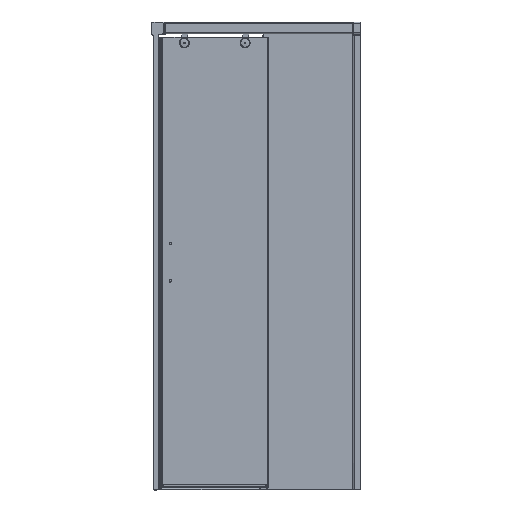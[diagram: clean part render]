
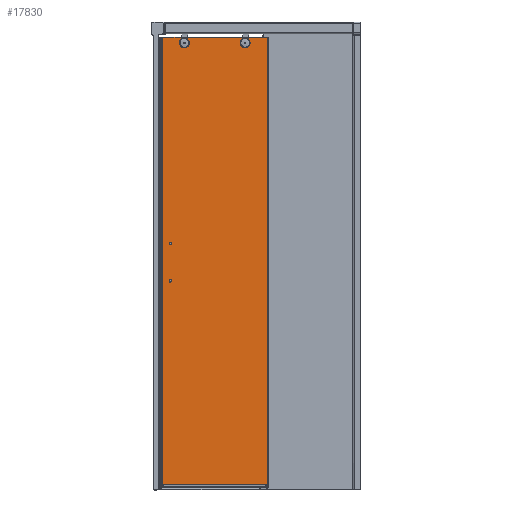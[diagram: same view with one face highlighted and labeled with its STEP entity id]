
A CAD part, left-side view. The second image highlights one B-rep face of the part: STEP entity #17830.
In plain terms, the highlighted planar face has unit normal (-1, 0, 0).
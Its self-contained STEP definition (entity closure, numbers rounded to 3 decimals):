
#172=FACE_BOUND($,#2103,.T.);
#173=FACE_BOUND($,#2104,.T.);
#174=FACE_BOUND($,#2105,.T.);
#175=FACE_BOUND($,#2106,.T.);
#176=FACE_BOUND($,#2107,.T.);
#521=PLANE($,#18922);
#2103=EDGE_LOOP($,(#11898));
#2104=EDGE_LOOP($,(#11899));
#2105=EDGE_LOOP($,(#11900));
#2106=EDGE_LOOP($,(#11901));
#2107=EDGE_LOOP($,(#11902,#11903,#11904,#11905));
#3084=LINE($,#25840,#4780);
#3149=LINE($,#26245,#4845);
#3150=LINE($,#26247,#4846);
#3151=LINE($,#26248,#4847);
#4780=VECTOR($,#20744,455.);
#4845=VECTOR($,#20955,1914.4);
#4846=VECTOR($,#20956,455.);
#4847=VECTOR($,#20957,1914.4);
#6429=CIRCLE($,#18789,18.5);
#6449=CIRCLE($,#18826,18.5);
#6477=CIRCLE($,#18923,5.5);
#6478=CIRCLE($,#18924,5.5);
#7115=VERTEX_POINT($,#25570);
#7144=VERTEX_POINT($,#25722);
#7170=VERTEX_POINT($,#25837);
#7171=VERTEX_POINT($,#25839);
#7254=VERTEX_POINT($,#26240);
#7255=VERTEX_POINT($,#26242);
#7256=VERTEX_POINT($,#26244);
#7257=VERTEX_POINT($,#26246);
#8847=EDGE_CURVE($,#7115,#7115,#6429,.T.);
#8885=EDGE_CURVE($,#7144,#7144,#6449,.T.);
#8916=EDGE_CURVE($,#7170,#7171,#3084,.T.);
#9037=EDGE_CURVE($,#7254,#7254,#6477,.T.);
#9038=EDGE_CURVE($,#7255,#7255,#6478,.T.);
#9039=EDGE_CURVE($,#7170,#7256,#3149,.T.);
#9040=EDGE_CURVE($,#7257,#7256,#3150,.T.);
#9041=EDGE_CURVE($,#7171,#7257,#3151,.T.);
#11898=ORIENTED_EDGE($,*,*,#8847,.T.);
#11899=ORIENTED_EDGE($,*,*,#8885,.T.);
#11900=ORIENTED_EDGE($,*,*,#9037,.T.);
#11901=ORIENTED_EDGE($,*,*,#9038,.T.);
#11902=ORIENTED_EDGE($,*,*,#8916,.F.);
#11903=ORIENTED_EDGE($,*,*,#9039,.T.);
#11904=ORIENTED_EDGE($,*,*,#9040,.F.);
#11905=ORIENTED_EDGE($,*,*,#9041,.F.);
#17830=ADVANCED_FACE($,(#172,#173,#174,#175,#176),#521,.T.);
#18789=AXIS2_PLACEMENT_3D($,#25571,#20591,#20592);
#18826=AXIS2_PLACEMENT_3D($,#25723,#20679,#20680);
#18922=AXIS2_PLACEMENT_3D($,#26239,#20949,#20950);
#18923=AXIS2_PLACEMENT_3D($,#26241,#20951,#20952);
#18924=AXIS2_PLACEMENT_3D($,#26243,#20953,#20954);
#20591=DIRECTION('center_axis',(1.,0.,0.));
#20592=DIRECTION('ref_axis',(0.,0.899,-0.437));
#20679=DIRECTION('center_axis',(1.,0.,0.));
#20680=DIRECTION('ref_axis',(0.,0.899,-0.437));
#20744=DIRECTION($,(0.,1.,0.));
#20949=DIRECTION('center_axis',(-1.,0.,0.));
#20950=DIRECTION('ref_axis',(0.,-1.,0.));
#20951=DIRECTION('center_axis',(1.,0.,0.));
#20952=DIRECTION('ref_axis',(0.,-1.,0.));
#20953=DIRECTION('center_axis',(1.,0.,0.));
#20954=DIRECTION('ref_axis',(0.,-1.,0.));
#20955=DIRECTION($,(0.,0.,1.));
#20956=DIRECTION($,(0.,-1.,0.));
#20957=DIRECTION($,(0.,0.,1.));
#25570=CARTESIAN_POINT('',(1764.686,749.135,1930.192));
#25571=CARTESIAN_POINT('Origin',(1764.686,765.772,1922.1));
#25722=CARTESIAN_POINT('',(1764.686,489.135,1930.192));
#25723=CARTESIAN_POINT('Origin',(1764.686,505.772,1922.1));
#25837=CARTESIAN_POINT('',(1764.686,410.772,32.7));
#25839=CARTESIAN_POINT('',(1764.686,865.772,32.7));
#25840=CARTESIAN_POINT($,(1764.686,405.772,32.7));
#26239=CARTESIAN_POINT('Origin',(1764.686,865.772,22.1));
#26240=CARTESIAN_POINT('',(1764.686,831.272,1064.6));
#26241=CARTESIAN_POINT('Origin',(1764.686,825.772,1064.6));
#26242=CARTESIAN_POINT('',(1764.686,831.272,904.6));
#26243=CARTESIAN_POINT('Origin',(1764.686,825.772,904.6));
#26244=CARTESIAN_POINT('',(1764.686,410.772,1947.1));
#26245=CARTESIAN_POINT($,(1764.686,410.772,984.6));
#26246=CARTESIAN_POINT('',(1764.686,865.772,1947.1));
#26247=CARTESIAN_POINT($,(1764.686,865.772,1947.1));
#26248=CARTESIAN_POINT($,(1764.686,865.772,22.1));
